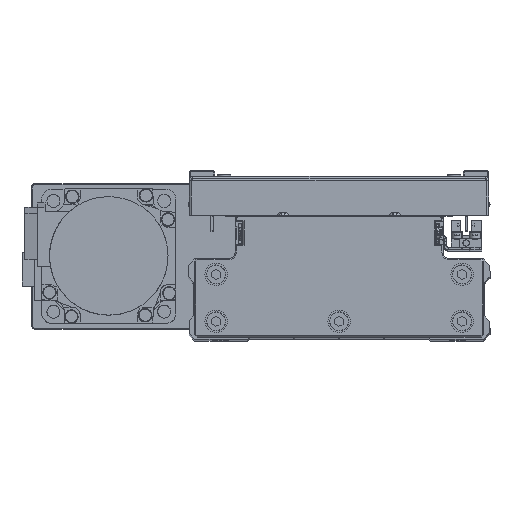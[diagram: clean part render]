
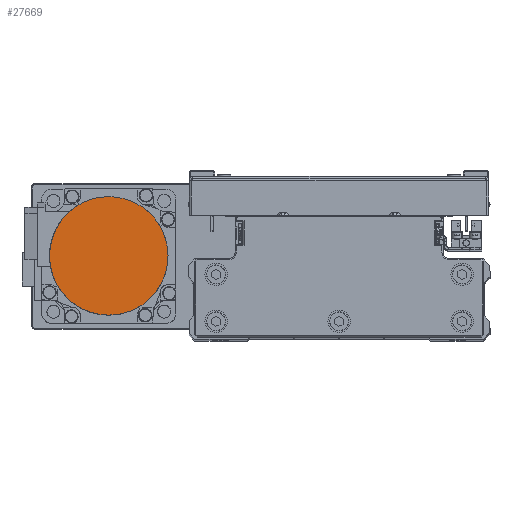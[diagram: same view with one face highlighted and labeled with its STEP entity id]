
A CAD part, top view. The second image highlights one B-rep face of the part: STEP entity #27669.
In plain terms, the highlighted planar face has unit normal (0, 0, 1) as drawn and (0, 0, -1) by its records, which use the part's own axes.
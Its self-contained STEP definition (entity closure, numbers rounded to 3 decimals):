
#1185 = CARTESIAN_POINT ( 'NONE',  ( -26.5, 0., -109.7 ) ) ;
#1403 = CARTESIAN_POINT ( 'NONE',  ( -8.539, -25.147, -109.7 ) ) ;
#1620 = CARTESIAN_POINT ( 'NONE',  ( 21.07, -16.165, -109.7 ) ) ;
#2183 = ORIENTED_EDGE ( 'NONE', *, *, #35739, .F. ) ;
#2771 = CARTESIAN_POINT ( 'NONE',  ( 22.998, 13.28, -109.7 ) ) ;
#2993 = CARTESIAN_POINT ( 'NONE',  ( -6.871, 25.652, -109.7 ) ) ;
#3212 = CARTESIAN_POINT ( 'NONE',  ( -26.5, 1.734, -109.7 ) ) ;
#4696 = CARTESIAN_POINT ( 'NONE',  ( -16.165, -21.07, -109.7 ) ) ;
#4912 = CARTESIAN_POINT ( 'NONE',  ( 16.165, -21.07, -109.7 ) ) ;
#6057 = CARTESIAN_POINT ( 'NONE',  ( 25.652, 6.871, -109.7 ) ) ;
#6253 = DIRECTION ( 'NONE',  ( 1., 0., 0. ) ) ;
#6278 = CARTESIAN_POINT ( 'NONE',  ( 1.734, 26.5, -109.7 ) ) ;
#6494 = CARTESIAN_POINT ( 'NONE',  ( -25.147, 8.539, -109.7 ) ) ;
#7984 = CARTESIAN_POINT ( 'NONE',  ( -21.07, -16.165, -109.7 ) ) ;
#8195 = CARTESIAN_POINT ( 'NONE',  ( 8.539, -25.147, -109.7 ) ) ;
#8419 = CARTESIAN_POINT ( 'NONE',  ( 26.5, 0., -109.7 ) ) ;
#9341 = CARTESIAN_POINT ( 'NONE',  ( 26.5, 0., -109.7 ) ) ;
#9541 = PLANE ( 'NONE',  #40497 ) ;
#9568 = CARTESIAN_POINT ( 'NONE',  ( 8.539, 25.147, -109.7 ) ) ;
#9788 = CARTESIAN_POINT ( 'NONE',  ( -21.07, 16.165, -109.7 ) ) ;
#11277 = CARTESIAN_POINT ( 'NONE',  ( -25.147, -8.539, -109.7 ) ) ;
#11499 = CARTESIAN_POINT ( 'NONE',  ( 1.734, -26.5, -109.7 ) ) ;
#11710 = CARTESIAN_POINT ( 'NONE',  ( 25.652, -6.871, -109.7 ) ) ;
#12867 = CARTESIAN_POINT ( 'NONE',  ( 16.165, 21.07, -109.7 ) ) ;
#13083 = CARTESIAN_POINT ( 'NONE',  ( -16.165, 21.07, -109.7 ) ) ;
#14581 = CARTESIAN_POINT ( 'NONE',  ( -26.5, -1.734, -109.7 ) ) ;
#14796 = CARTESIAN_POINT ( 'NONE',  ( -6.871, -25.652, -109.7 ) ) ;
#15017 = CARTESIAN_POINT ( 'NONE',  ( 22.998, -13.28, -109.7 ) ) ;
#16168 = CARTESIAN_POINT ( 'NONE',  ( 21.07, 16.165, -109.7 ) ) ;
#16388 = CARTESIAN_POINT ( 'NONE',  ( -8.539, 25.147, -109.7 ) ) ;
#16596 = CARTESIAN_POINT ( 'NONE',  ( -26.5, 0., -109.7 ) ) ;
#18105 = CARTESIAN_POINT ( 'NONE',  ( -13.28, -22.998, -109.7 ) ) ;
#18323 = CARTESIAN_POINT ( 'NONE',  ( 17.512, -19.965, -109.7 ) ) ;
#19462 = CARTESIAN_POINT ( 'NONE',  ( 25.147, 8.539, -109.7 ) ) ;
#19677 = CARTESIAN_POINT ( 'NONE',  ( -1.734, 26.5, -109.7 ) ) ;
#19894 = CARTESIAN_POINT ( 'NONE',  ( -25.652, 6.871, -109.7 ) ) ;
#21392 = CARTESIAN_POINT ( 'NONE',  ( -19.965, -17.512, -109.7 ) ) ;
#21609 = CARTESIAN_POINT ( 'NONE',  ( 11.744, -23.819, -109.7 ) ) ;
#22755 = CARTESIAN_POINT ( 'NONE',  ( 26.5, 1.734, -109.7 ) ) ;
#22941 = CARTESIAN_POINT ( 'NONE',  ( 0., 0., -109.7 ) ) ;
#22968 = CARTESIAN_POINT ( 'NONE',  ( 6.871, 25.652, -109.7 ) ) ;
#23189 = CARTESIAN_POINT ( 'NONE',  ( -22.998, 13.28, -109.7 ) ) ;
#23585 = EDGE_CURVE ( 'NONE', #39747, #42430, #24944, .T. ) ;
#24691 = CARTESIAN_POINT ( 'NONE',  ( -23.819, -11.744, -109.7 ) ) ;
#24913 = CARTESIAN_POINT ( 'NONE',  ( 3.469, -26.329, -109.7 ) ) ;
#24944 = B_SPLINE_CURVE_WITH_KNOTS ( 'NONE', 3,
 ( #1185, #14581, #27989, #41354, #11277, #24691, #38066, #7984, #21392, #34790, #4696, #18105, #31489, #1403, #14796, #28209, #41575, #11499, #24913, #38284, #8195, #21609, #35005, #4912, #18323, #31707, #1620, #15017, #28423, #41792, #11710, #25123, #38502, #8419 ),
 .UNSPECIFIED., .F., .F.,
 ( 4, 2, 2, 2, 2, 2, 2, 2, 2, 2, 2, 2, 2, 2, 2, 2, 4 ),
 ( 0., 0.063, 0.125, 0.188, 0.25, 0.312, 0.375, 0.437, 0.5, 0.562, 0.625, 0.687, 0.75, 0.813, 0.875, 0.938, 1. ),
 .UNSPECIFIED. ) ;
#25123 = CARTESIAN_POINT ( 'NONE',  ( 26.329, -3.469, -109.7 ) ) ;
#25949 = CARTESIAN_POINT ( 'NONE',  ( 26.5, 0., -109.7 ) ) ;
#26279 = CARTESIAN_POINT ( 'NONE',  ( 13.28, 22.998, -109.7 ) ) ;
#26493 = CARTESIAN_POINT ( 'NONE',  ( -17.512, 19.965, -109.7 ) ) ;
#27669 = ADVANCED_FACE ( 'NONE', ( #39625 ), #9541, .F. ) ;
#27989 = CARTESIAN_POINT ( 'NONE',  ( -26.329, -3.469, -109.7 ) ) ;
#28209 = CARTESIAN_POINT ( 'NONE',  ( -3.469, -26.329, -109.7 ) ) ;
#28423 = CARTESIAN_POINT ( 'NONE',  ( 23.819, -11.744, -109.7 ) ) ;
#29574 = CARTESIAN_POINT ( 'NONE',  ( 19.965, 17.512, -109.7 ) ) ;
#29796 = CARTESIAN_POINT ( 'NONE',  ( -11.744, 23.819, -109.7 ) ) ;
#31445 = B_SPLINE_CURVE_WITH_KNOTS ( 'NONE', 3,
 ( #9341, #22755, #36145, #6057, #19462, #32847, #2771, #16168, #29574, #42934, #12867, #26279, #39651, #9568, #22968, #36362, #6278, #19677, #33067, #2993, #16388, #29796, #43149, #13083, #26493, #39864, #9788, #23189, #36582, #6494, #19894, #33287, #3212, #16596 ),
 .UNSPECIFIED., .F., .F.,
 ( 4, 2, 2, 2, 2, 2, 2, 2, 2, 2, 2, 2, 2, 2, 2, 2, 4 ),
 ( 0., 0.062, 0.125, 0.187, 0.25, 0.312, 0.375, 0.437, 0.5, 0.562, 0.625, 0.687, 0.75, 0.813, 0.875, 0.938, 1. ),
 .UNSPECIFIED. ) ;
#31489 = CARTESIAN_POINT ( 'NONE',  ( -11.744, -23.819, -109.7 ) ) ;
#31707 = CARTESIAN_POINT ( 'NONE',  ( 19.965, -17.512, -109.7 ) ) ;
#32847 = CARTESIAN_POINT ( 'NONE',  ( 23.819, 11.744, -109.7 ) ) ;
#33067 = CARTESIAN_POINT ( 'NONE',  ( -3.469, 26.329, -109.7 ) ) ;
#33287 = CARTESIAN_POINT ( 'NONE',  ( -26.329, 3.469, -109.7 ) ) ;
#34790 = CARTESIAN_POINT ( 'NONE',  ( -17.512, -19.965, -109.7 ) ) ;
#35005 = CARTESIAN_POINT ( 'NONE',  ( 13.28, -22.998, -109.7 ) ) ;
#35739 = EDGE_CURVE ( 'NONE', #42430, #39747, #31445, .T. ) ;
#36145 = CARTESIAN_POINT ( 'NONE',  ( 26.329, 3.469, -109.7 ) ) ;
#36337 = DIRECTION ( 'NONE',  ( 0., 0., 1. ) ) ;
#36362 = CARTESIAN_POINT ( 'NONE',  ( 3.469, 26.329, -109.7 ) ) ;
#36582 = CARTESIAN_POINT ( 'NONE',  ( -23.819, 11.744, -109.7 ) ) ;
#38066 = CARTESIAN_POINT ( 'NONE',  ( -22.998, -13.28, -109.7 ) ) ;
#38284 = CARTESIAN_POINT ( 'NONE',  ( 6.871, -25.652, -109.7 ) ) ;
#38502 = CARTESIAN_POINT ( 'NONE',  ( 26.5, -1.734, -109.7 ) ) ;
#39625 = FACE_OUTER_BOUND ( 'NONE', #42704, .T. ) ;
#39651 = CARTESIAN_POINT ( 'NONE',  ( 11.744, 23.819, -109.7 ) ) ;
#39668 = CARTESIAN_POINT ( 'NONE',  ( -26.5, 0., -109.7 ) ) ;
#39747 = VERTEX_POINT ( 'NONE', #39668 ) ;
#39864 = CARTESIAN_POINT ( 'NONE',  ( -19.965, 17.512, -109.7 ) ) ;
#40497 = AXIS2_PLACEMENT_3D ( 'NONE', #22941, #36337, #6253 ) ;
#40760 = ORIENTED_EDGE ( 'NONE', *, *, #23585, .F. ) ;
#41354 = CARTESIAN_POINT ( 'NONE',  ( -25.652, -6.871, -109.7 ) ) ;
#41575 = CARTESIAN_POINT ( 'NONE',  ( -1.734, -26.5, -109.7 ) ) ;
#41792 = CARTESIAN_POINT ( 'NONE',  ( 25.147, -8.539, -109.7 ) ) ;
#42430 = VERTEX_POINT ( 'NONE', #25949 ) ;
#42704 = EDGE_LOOP ( 'NONE', ( #2183, #40760 ) ) ;
#42934 = CARTESIAN_POINT ( 'NONE',  ( 17.512, 19.965, -109.7 ) ) ;
#43149 = CARTESIAN_POINT ( 'NONE',  ( -13.28, 22.998, -109.7 ) ) ;
